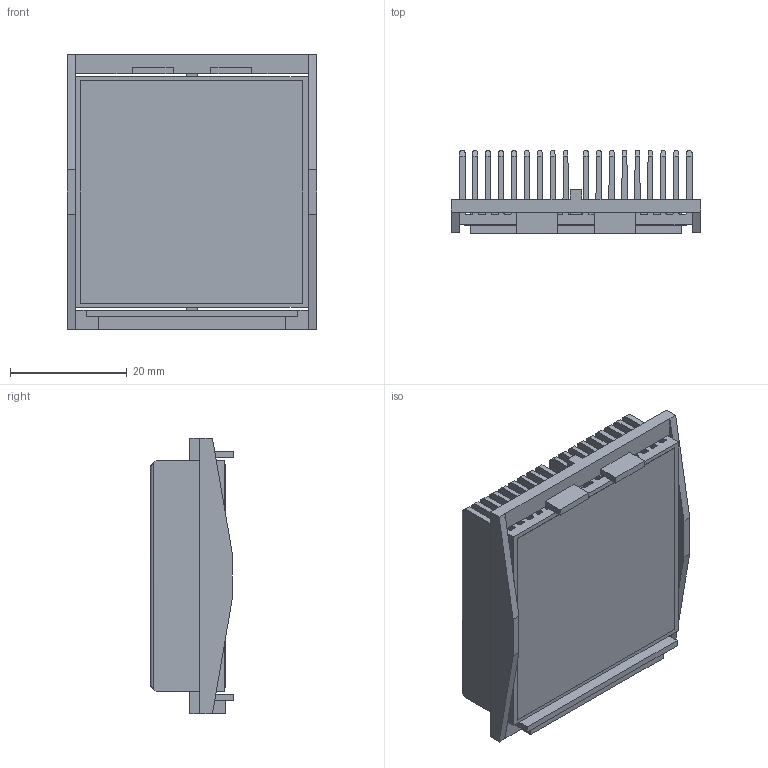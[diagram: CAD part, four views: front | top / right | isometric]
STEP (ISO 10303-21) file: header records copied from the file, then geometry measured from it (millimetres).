
FILE_DESCRIPTION (( 'STEP AP214' ), '1' );
FILE_NAME ('INL40001-13-1.7BU.STEP', '2023-03-01T17:11:05', ( '' ), ( '' ), 'SwSTEP 2.0', 'SolidWorks 2020', '' );
FILE_SCHEMA (( 'AUTOMOTIVE_DESIGN' ));
Length unit declared in the file: millimetre
Products named in the file (1): INL40001-13-1.7BU
Bounding box: 42.7 x 14.2 x 47.1 mm (x, y, z)
Volume: 11488.8 mm3; surface area: 24466.2 mm2
Topology: 3 solids, 3 shells, 198 faces, 578 edges, 384 vertices
Faces by surface type: plane 146, cylinder 52
Entity records: 8712 total; most frequent: CARTESIAN_POINT 1269, ORIENTED_EDGE 1156, DIRECTION 1008, EDGE_CURVE 578, LINE 474, VECTOR 474, VERTEX_POINT 384, AXIS2_PLACEMENT_3D 267
